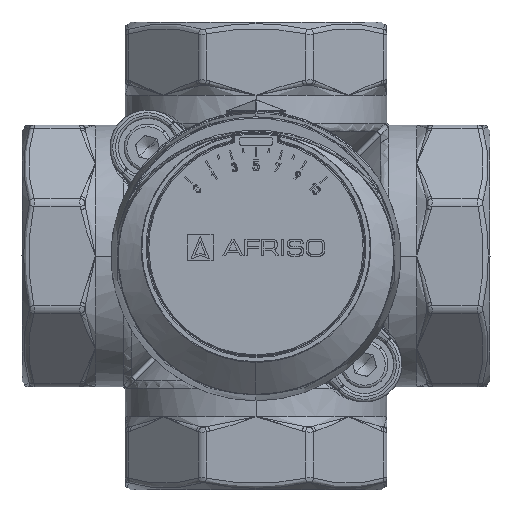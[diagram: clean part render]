
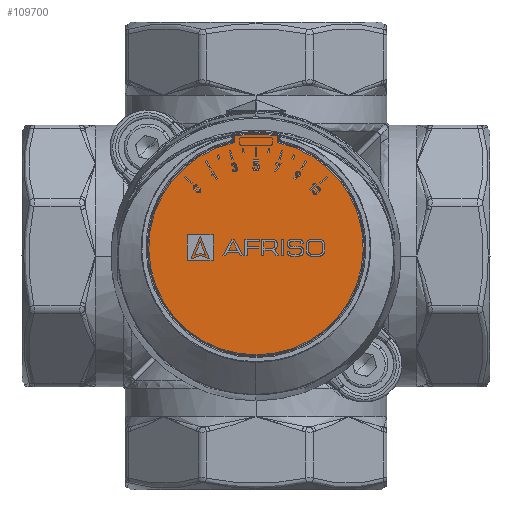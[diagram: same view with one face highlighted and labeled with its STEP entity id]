
A CAD part, front view. The second image highlights one B-rep face of the part: STEP entity #109700.
In plain terms, the highlighted planar face has unit normal (0, -1, 0) as drawn and (0, 1, 0) by its records, which use the part's own axes.
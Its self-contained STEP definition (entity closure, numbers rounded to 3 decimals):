
#8291 = VERTEX_POINT ( 'NONE', #166282 ) ;
#13322 = DIRECTION ( 'NONE',  ( 0., 0., -1. ) ) ;
#18116 = DIRECTION ( 'NONE',  ( -0.136, 0., 0.991 ) ) ;
#24537 = EDGE_CURVE ( 'NONE', #377718, #245743, #358379, .T. ) ;
#26279 = DIRECTION ( 'NONE',  ( 0., 0., 1. ) ) ;
#27311 = CARTESIAN_POINT ( 'NONE',  ( 0., 60.5, 1.5 ) ) ;
#30772 = DIRECTION ( 'NONE',  ( 0., 1., 0. ) ) ;
#32060 = AXIS2_PLACEMENT_3D ( 'NONE', #393011, #200693, #102499 ) ;
#34278 = DIRECTION ( 'NONE',  ( 0., 1., 0. ) ) ;
#65650 = ORIENTED_EDGE ( 'NONE', *, *, #324379, .T. ) ;
#80571 = VERTEX_POINT ( 'NONE', #137918 ) ;
#92168 = EDGE_CURVE ( 'NONE', #235772, #8291, #162405, .T. ) ;
#102499 = DIRECTION ( 'NONE',  ( -1., 0., 0. ) ) ;
#104684 = CARTESIAN_POINT ( 'NONE',  ( 3.9, 60.5, 20.351 ) ) ;
#105801 = CIRCLE ( 'NONE', #32060, 0.3 ) ;
#109700 = ADVANCED_FACE ( 'NONE', ( #281711 ), #407211, .T. ) ;
#114214 = ORIENTED_EDGE ( 'NONE', *, *, #92168, .T. ) ;
#116672 = CARTESIAN_POINT ( 'NONE',  ( 0., 60.5, 1.5 ) ) ;
#120189 = ORIENTED_EDGE ( 'NONE', *, *, #402574, .T. ) ;
#120504 = CARTESIAN_POINT ( 'NONE',  ( 0., 60.5, -4.952 ) ) ;
#120793 = DIRECTION ( 'NONE',  ( 0., 0., -1. ) ) ;
#123507 = DIRECTION ( 'NONE',  ( 0., 0., 1. ) ) ;
#133513 = AXIS2_PLACEMENT_3D ( 'NONE', #320681, #34278, #161819 ) ;
#137918 = CARTESIAN_POINT ( 'NONE',  ( -3.9, 60.5, 20.351 ) ) ;
#150361 = AXIS2_PLACEMENT_3D ( 'NONE', #27311, #154884, #123507 ) ;
#154884 = DIRECTION ( 'NONE',  ( 0., 1., 0. ) ) ;
#161819 = DIRECTION ( 'NONE',  ( 0.136, 0., 0.991 ) ) ;
#162405 = CIRCLE ( 'NONE', #396087, 26.8 ) ;
#166282 = CARTESIAN_POINT ( 'NONE',  ( 3.641, 60.5, 21.599 ) ) ;
#175657 = ORIENTED_EDGE ( 'NONE', *, *, #24537, .T. ) ;
#179044 = CARTESIAN_POINT ( 'NONE',  ( -3.9, 60.5, 20.351 ) ) ;
#197596 = VECTOR ( 'NONE', #26279, 1000. ) ;
#200693 = DIRECTION ( 'NONE',  ( 0., 1., 0. ) ) ;
#213336 = CARTESIAN_POINT ( 'NONE',  ( -3.9, 60.5, 21.302 ) ) ;
#225923 = AXIS2_PLACEMENT_3D ( 'NONE', #116672, #30772, #120793 ) ;
#235772 = VERTEX_POINT ( 'NONE', #368545 ) ;
#245743 = VERTEX_POINT ( 'NONE', #104684 ) ;
#261307 = ORIENTED_EDGE ( 'NONE', *, *, #306827, .T. ) ;
#271593 = EDGE_LOOP ( 'NONE', ( #120189, #349171, #114214, #65650, #175657, #261307 ) ) ;
#275253 = DIRECTION ( 'NONE',  ( 0., 1., 0. ) ) ;
#277255 = LINE ( 'NONE', #179044, #197596 ) ;
#281711 = FACE_OUTER_BOUND ( 'NONE', #271593, .T. ) ;
#287193 = CIRCLE ( 'NONE', #133513, 0.3 ) ;
#299769 = CARTESIAN_POINT ( 'NONE',  ( 3.9, 60.5, 21.302 ) ) ;
#306827 = EDGE_CURVE ( 'NONE', #245743, #80571, #323966, .T. ) ;
#320681 = CARTESIAN_POINT ( 'NONE',  ( 3.6, 60.5, 21.302 ) ) ;
#323966 = CIRCLE ( 'NONE', #150361, 19.25 ) ;
#324379 = EDGE_CURVE ( 'NONE', #8291, #377718, #287193, .T. ) ;
#335671 = CARTESIAN_POINT ( 'NONE',  ( 3.9, 60.5, 21.302 ) ) ;
#338591 = VERTEX_POINT ( 'NONE', #213336 ) ;
#349171 = ORIENTED_EDGE ( 'NONE', *, *, #364004, .T. ) ;
#358379 = LINE ( 'NONE', #299769, #404337 ) ;
#364004 = EDGE_CURVE ( 'NONE', #338591, #235772, #105801, .T. ) ;
#368545 = CARTESIAN_POINT ( 'NONE',  ( -3.641, 60.5, 21.599 ) ) ;
#377718 = VERTEX_POINT ( 'NONE', #335671 ) ;
#393011 = CARTESIAN_POINT ( 'NONE',  ( -3.6, 60.5, 21.302 ) ) ;
#396087 = AXIS2_PLACEMENT_3D ( 'NONE', #120504, #275253, #18116 ) ;
#402574 = EDGE_CURVE ( 'NONE', #80571, #338591, #277255, .T. ) ;
#404337 = VECTOR ( 'NONE', #13322, 1000. ) ;
#407211 = PLANE ( 'NONE',  #225923 ) ;
